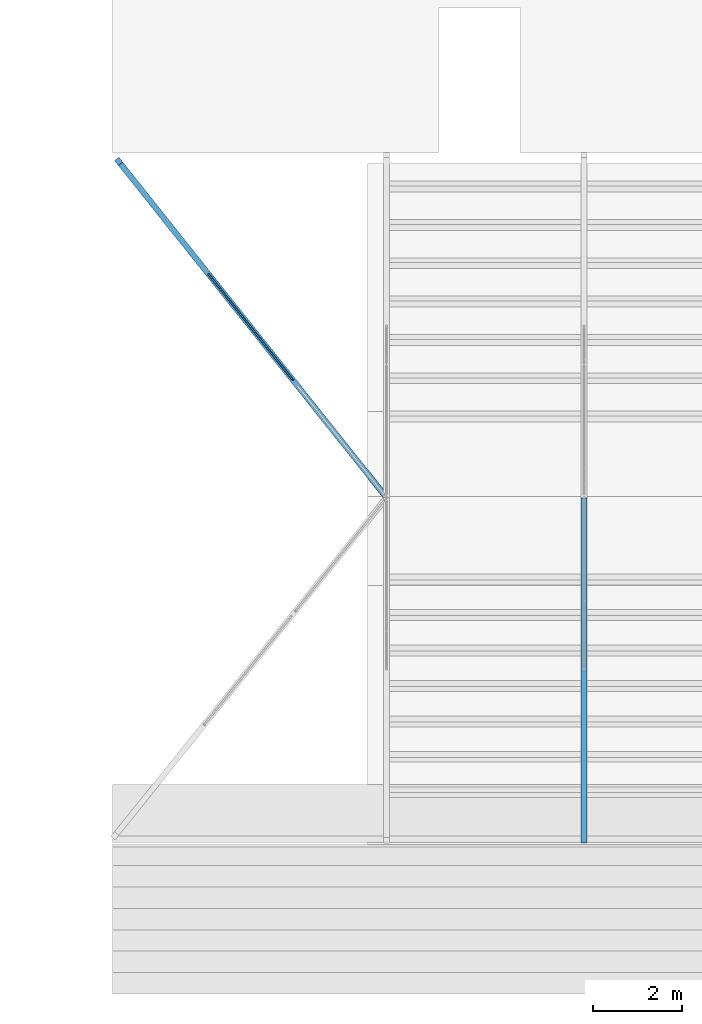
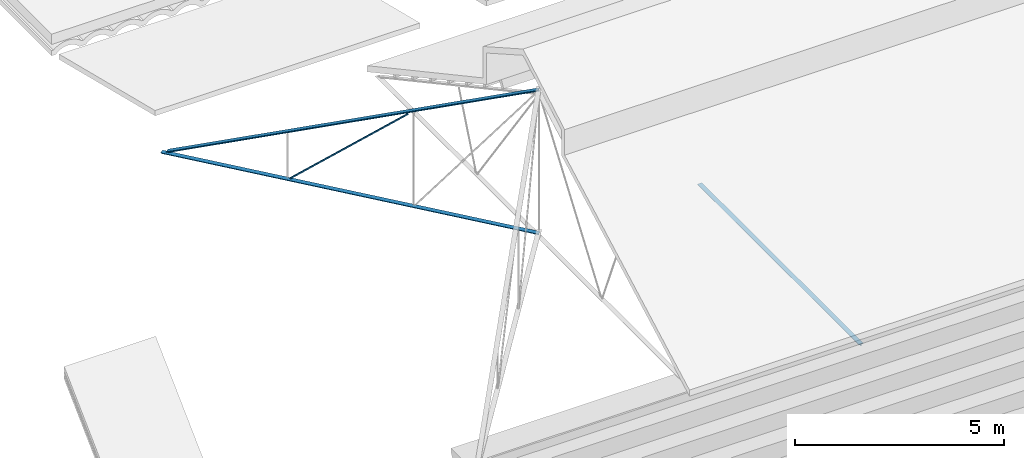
# One storey, part 4 of 15: 3 beams, 1 member, 2 elements without a shape of their own.
"""IFC4 building model written with IfcOpenShell, lengths in metres."""

from ifc_helpers import new_model, entity, si_unit, converted_unit, derived_unit, direction, frame, origin, place, context, subcontext, project, spatial, line, arc, indexed_curve, outline, extrude, source, transform, mapped, material, type_object, type_shapes, element, aggregate, save


model = new_model("IFC4")

# Units and contexts
model_context = context("Model", 3, precision=1e-05, world=origin(), true_north=direction((6.123031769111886e-17, 1.0)))
body_context = subcontext(model_context, "Body", "Model", "MODEL_VIEW")
ifc_project = project(units=[si_unit("LENGTHUNIT", "METRE"), si_unit("AREAUNIT", "SQUARE_METRE"), si_unit("VOLUMEUNIT", "CUBIC_METRE"), converted_unit("PLANEANGLEUNIT", "DEGREE", entity("IfcRatioMeasure", 0.017453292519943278), si_unit("PLANEANGLEUNIT", "RADIAN"), dimensions=[0, 0, 0, 0, 0, 0, 0]), si_unit("MASSUNIT", "GRAM", prefix="KILO"), derived_unit("MASSDENSITYUNIT", [(si_unit("MASSUNIT", "GRAM", prefix="KILO"), 1), (si_unit("LENGTHUNIT", "METRE"), -3)]), derived_unit("MOMENTOFINERTIAUNIT", [(si_unit("LENGTHUNIT", "METRE"), 4)]), si_unit("TIMEUNIT", "SECOND"), si_unit("FREQUENCYUNIT", "HERTZ"), si_unit("THERMODYNAMICTEMPERATUREUNIT", "DEGREE_CELSIUS"), derived_unit("THERMALTRANSMITTANCEUNIT", [(si_unit("MASSUNIT", "GRAM", prefix="KILO"), 1), (si_unit("THERMODYNAMICTEMPERATUREUNIT", "KELVIN"), -1), (si_unit("TIMEUNIT", "SECOND"), -3)]), derived_unit("VOLUMETRICFLOWRATEUNIT", [(si_unit("LENGTHUNIT", "METRE"), 3), (si_unit("TIMEUNIT", "SECOND"), -1)]), derived_unit("MASSFLOWRATEUNIT", [(si_unit("MASSUNIT", "GRAM", prefix="KILO"), 1), (si_unit("TIMEUNIT", "SECOND"), -1)]), derived_unit("ROTATIONALFREQUENCYUNIT", [(si_unit("TIMEUNIT", "SECOND"), -1)]), si_unit("ELECTRICCURRENTUNIT", "AMPERE"), si_unit("ELECTRICVOLTAGEUNIT", "VOLT"), si_unit("POWERUNIT", "WATT"), si_unit("FORCEUNIT", "NEWTON", prefix="KILO"), si_unit("ILLUMINANCEUNIT", "LUX"), si_unit("LUMINOUSFLUXUNIT", "LUMEN"), si_unit("LUMINOUSINTENSITYUNIT", "CANDELA"), derived_unit("USERDEFINED", [(si_unit("MASSUNIT", "GRAM", prefix="KILO"), -1), (si_unit("LENGTHUNIT", "METRE"), -2), (si_unit("TIMEUNIT", "SECOND"), 3), (si_unit("LUMINOUSFLUXUNIT", "LUMEN"), 1)]), derived_unit("SOUNDPOWERUNIT", [(si_unit("MASSUNIT", "GRAM", prefix="KILO"), 1), (si_unit("LENGTHUNIT", "METRE"), 2), (si_unit("TIMEUNIT", "SECOND"), -3)]), derived_unit("SOUNDPRESSUREUNIT", [(si_unit("MASSUNIT", "GRAM", prefix="KILO"), 1), (si_unit("LENGTHUNIT", "METRE"), -1), (si_unit("TIMEUNIT", "SECOND"), -2)]), derived_unit("LINEARVELOCITYUNIT", [(si_unit("LENGTHUNIT", "METRE"), 1), (si_unit("TIMEUNIT", "SECOND"), -1)]), si_unit("PRESSUREUNIT", "PASCAL"), derived_unit("USERDEFINED", [(si_unit("LENGTHUNIT", "METRE"), -2), (si_unit("MASSUNIT", "GRAM", prefix="KILO"), 1), (si_unit("TIMEUNIT", "SECOND"), -2)]), derived_unit("LINEARFORCEUNIT", [(si_unit("MASSUNIT", "GRAM", prefix="KILO"), 1), (si_unit("LENGTHUNIT", "METRE"), 1), (si_unit("TIMEUNIT", "SECOND"), -2), (si_unit("LENGTHUNIT", "METRE"), -1)]), derived_unit("PLANARFORCEUNIT", [(si_unit("MASSUNIT", "GRAM", prefix="KILO"), 1), (si_unit("LENGTHUNIT", "METRE"), 1), (si_unit("TIMEUNIT", "SECOND"), -2), (si_unit("LENGTHUNIT", "METRE"), -2)])], contexts=[model_context])

# Site, building, storey
site_placement = place(None, origin())
site = spatial("IfcSite", under=ifc_project, at=site_placement, Name="Superficie", CompositionType="ELEMENT")
building_placement = place(site_placement, origin())
building = spatial("IfcBuilding", under=site, at=building_placement, CompositionType="ELEMENT")
storey_placement = place(building_placement, frame((0.0, 0.0, 7.25)))
storey = spatial("IfcBuildingStorey", under=building, at=storey_placement, Name="Nivel 2", CompositionType="ELEMENT", Elevation=7.25)

# Assembly, beams, member
assembly_1_placement = place(storey_placement, origin())
assembly_1 = element("IfcElementAssembly", 1, at=assembly_1_placement, inside=storey, Name="Cercha esquina:Cercha esquina", ObjectType="Cercha esquina:Cercha esquina", AssemblyPlace="NOTDEFINED", PredefinedType="TRUSS")
ifc_material = material(Name="Metal - Acero - 345 MPa", Category="Metal")
beam_type_1 = type_object("IfcBeamType", Name="MT-T estructural:MT65X14.05", PredefinedType="BEAM", material=ifc_material)
shared_shape_1 = source(origin(), body_context, "Body", "SweptSolid", [
    extrude(outline(indexed_curve([(-0.019739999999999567, -0.06350000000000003), (-0.009140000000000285, -0.06350000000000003), (-0.0091400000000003, -0.007399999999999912), (-0.008144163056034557, -0.004995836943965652), (-0.005740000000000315, -0.003999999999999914), (0.04376000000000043, -0.003999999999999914), (0.04376000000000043, 0.00400000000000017), (-0.005740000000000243, 0.004000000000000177), (-0.008144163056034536, 0.0049958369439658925), (-0.009140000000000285, 0.007400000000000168), (-0.009140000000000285, 0.06349999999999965), (-0.019739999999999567, 0.06349999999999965)], segments=[line(1, 2, 3), arc(3, 4, 5), line(5, 6, 7, 8), arc(8, 9, 10), line(10, 11, 12, 1)], self_intersect=False)), frame((-4.861000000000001, 0.0, 0.012009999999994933), z_axis=(1.0, 0.0, 0.0), x_axis=(0.0, 0.0, -1.0)), (0.0, 0.0, 1.0), 9.714),
])
type_shapes(beam_type_1, [shared_shape_1])
beam_1_placement = place(assembly_1_placement, frame((-19.51663432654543, 1.8360970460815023, 0.15256978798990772), z_axis=(-0.006978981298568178, 0.008759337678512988, 0.9999372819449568), x_axis=(0.6231036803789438, -0.782059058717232, 0.011199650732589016)))
beam_1 = element("IfcBeam", 2, at=beam_1_placement, type_object=beam_type_1, material=ifc_material, Name="MT-T estructural:MT65X14.05", ObjectType="MT-T estructural:MT65X14.05", PredefinedType="BEAM", context=body_context, shape_type="MappedRepresentation", body=[
    mapped(shared_shape_1, transform((0.0, 0.0, 0.0), scale=1.0)),
])
beam_type_2 = type_object("IfcBeamType", Name="MT-T estructural:MT65X14.05", PredefinedType="BEAM", material=ifc_material)
shared_shape_2 = source(origin(), body_context, "Body", "SweptSolid", [
    extrude(outline(indexed_curve([(-0.019739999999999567, -0.06350000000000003), (-0.009140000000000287, -0.06350000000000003), (-0.009140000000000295, -0.007399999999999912), (-0.00814416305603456, -0.004995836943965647), (-0.0057400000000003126, -0.003999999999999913), (0.043760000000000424, -0.003999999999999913), (0.043760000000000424, 0.004000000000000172), (-0.005740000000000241, 0.004000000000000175), (-0.008144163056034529, 0.0049958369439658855), (-0.009140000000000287, 0.007400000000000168), (-0.009140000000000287, 0.06349999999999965), (-0.019739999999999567, 0.06349999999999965)], segments=[line(1, 2, 3), arc(3, 4, 5), line(5, 6, 7, 8), arc(8, 9, 10), line(10, 11, 12, 1)], self_intersect=False)), frame((-5.153499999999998, 0.0, 0.012009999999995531), z_axis=(1.0, 0.0, 0.0), x_axis=(0.0, 0.0, -1.0)), (0.0, 0.0, 1.0), 10.462999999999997),
])
type_shapes(beam_type_2, [shared_shape_2])
beam_2_placement = place(assembly_1_placement, frame((-19.516634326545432, 1.836097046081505, 2.25346138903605), z_axis=(-0.25293013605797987, 0.317453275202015, 0.9139199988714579), x_axis=(0.5695026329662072, -0.7147842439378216, 0.4058943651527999)))
beam_2 = element("IfcBeam", 3, at=beam_2_placement, type_object=beam_type_2, material=ifc_material, Name="MT-T estructural:MT65X14.05", ObjectType="MT-T estructural:MT65X14.05", PredefinedType="BEAM", context=body_context, shape_type="MappedRepresentation", body=[
    mapped(shared_shape_2, transform((0.0, 0.0, 0.0), scale=1.0)),
])
member_type = type_object("IfcMemberType", Name="HSS-Sección estructural hueca:HSS41.3X41.3X4.8", PredefinedType="BRACE", material=ifc_material)
shared_shape_3 = source(origin(), body_context, "Body", "SweptSolid", [
    extrude(outline(indexed_curve([(-0.020650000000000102, -0.011809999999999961), (-0.01806082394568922, -0.018060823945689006), (-0.011810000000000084, -0.020649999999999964), (0.011810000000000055, -0.020649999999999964), (0.01806082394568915, -0.01806082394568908), (0.020650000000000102, -0.011809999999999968), (0.020650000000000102, 0.011809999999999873), (0.018060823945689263, 0.018060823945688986), (0.01181000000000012, 0.020649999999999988), (-0.011810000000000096, 0.020649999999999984), (-0.018060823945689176, 0.018060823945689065), (-0.020650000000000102, 0.011810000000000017)], segments=[arc(1, 2, 3), line(3, 4), arc(4, 5, 6), line(6, 7), arc(7, 8, 9), line(9, 10), arc(10, 11, 12), line(12, 1)], self_intersect=False), holes=[indexed_curve([(0.01180999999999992, -0.016230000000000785), (-0.011809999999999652, -0.016230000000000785), (-0.014935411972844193, -0.014935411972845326), (-0.016229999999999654, -0.011810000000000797), (-0.016229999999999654, 0.011809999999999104), (-0.014935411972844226, 0.01493541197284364), (-0.011809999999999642, 0.016229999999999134), (0.011809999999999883, 0.016229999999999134), (0.014935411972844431, 0.014935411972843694), (0.01622999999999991, 0.011809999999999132), (0.01622999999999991, -0.011810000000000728), (0.014935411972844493, -0.014935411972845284)], segments=[line(1, 2), arc(2, 3, 4), line(4, 5), arc(5, 6, 7), line(7, 8), arc(8, 9, 10), line(10, 11), arc(11, 12, 1)], self_intersect=False)]), frame((-2.0655000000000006, 0.0, 0.0), z_axis=(1.0, 0.0, 0.0), x_axis=(0.0, -1.0, 0.0)), (0.0, 0.0, 1.0), 4.031000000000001),
])
type_shapes(member_type, [shared_shape_3])
member_placement = place(assembly_1_placement, frame((-19.516634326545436, 1.8360970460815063, 1.553164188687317), z_axis=(0.4108857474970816, -0.5157037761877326, -0.7518128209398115), x_axis=(0.4684867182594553, -0.5879989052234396, 0.6593765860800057)))
member = element("IfcMember", 4, at=member_placement, type_object=member_type, material=ifc_material, Name="HSS-Sección estructural hueca:HSS41.3X41.3X4.8", ObjectType="HSS-Sección estructural hueca:HSS41.3X41.3X4.8", PredefinedType="BRACE", context=body_context, shape_type="MappedRepresentation", body=[
    mapped(shared_shape_3, transform((0.0, 0.0, 0.0), scale=1.0)),
])
aggregate(assembly_1, [beam_1, beam_2, member])

# Assembly, beam
assembly_2_placement = place(storey_placement, origin())
assembly_2 = element("IfcElementAssembly", 5, at=assembly_2_placement, inside=storey, Name="Cercha 3:Cercha 3", ObjectType="Cercha 3:Cercha 3", AssemblyPlace="NOTDEFINED", PredefinedType="TRUSS")
beam_type_3 = type_object("IfcBeamType", Name="MT-T estructural:MT65X14.05", PredefinedType="BEAM", material=ifc_material)
shared_shape_4 = source(origin(), body_context, "Body", "SweptSolid", [
    extrude(outline(indexed_curve([(-0.004000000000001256, -0.04376000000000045), (0.003999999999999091, -0.04376000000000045), (0.003999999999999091, 0.005740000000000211), (0.004995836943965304, 0.008144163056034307), (0.007399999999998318, 0.009140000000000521), (0.06349999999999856, 0.009140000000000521), (0.06349999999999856, 0.019740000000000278), (-0.06350000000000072, 0.019740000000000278), (-0.06350000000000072, 0.009140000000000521), (-0.0074000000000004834, 0.009140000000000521), (-0.00499583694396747, 0.008144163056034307), (-0.004000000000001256, 0.005740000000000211)], segments=[line(1, 2, 3), arc(3, 4, 5), line(5, 6, 7, 8, 9, 10), arc(10, 11, 12), line(12, 1)], self_intersect=False)), frame((-12.0626517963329, -9.703381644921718, 7.370715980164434), z_axis=(0.0, 1.0, 0.0), x_axis=(-1.0, 0.0, 0.0)), (0.0, 0.0, 1.0), 7.731000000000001),
])
type_shapes(beam_type_3, [shared_shape_4])
beam_3_placement = place(assembly_2_placement, frame((0.0, 0.0, -7.25)))
beam_3 = element("IfcBeam", 6, at=beam_3_placement, type_object=beam_type_3, material=ifc_material, Name="MT-T estructural:MT65X14.05", ObjectType="MT-T estructural:MT65X14.05", PredefinedType="BEAM", context=body_context, shape_type="MappedRepresentation", body=[
    mapped(shared_shape_4, transform((0.0, 0.0, 0.0), scale=1.0)),
])
aggregate(assembly_2, [beam_3])

save(model, "model.ifc")
